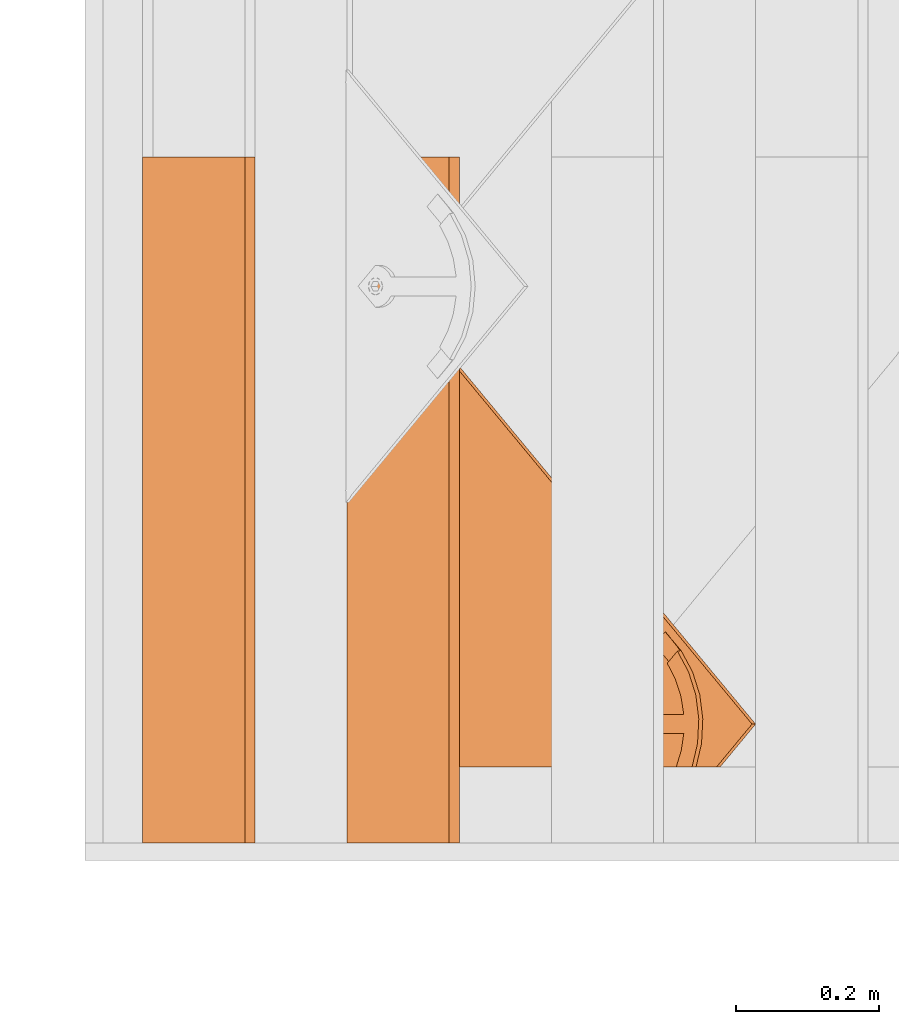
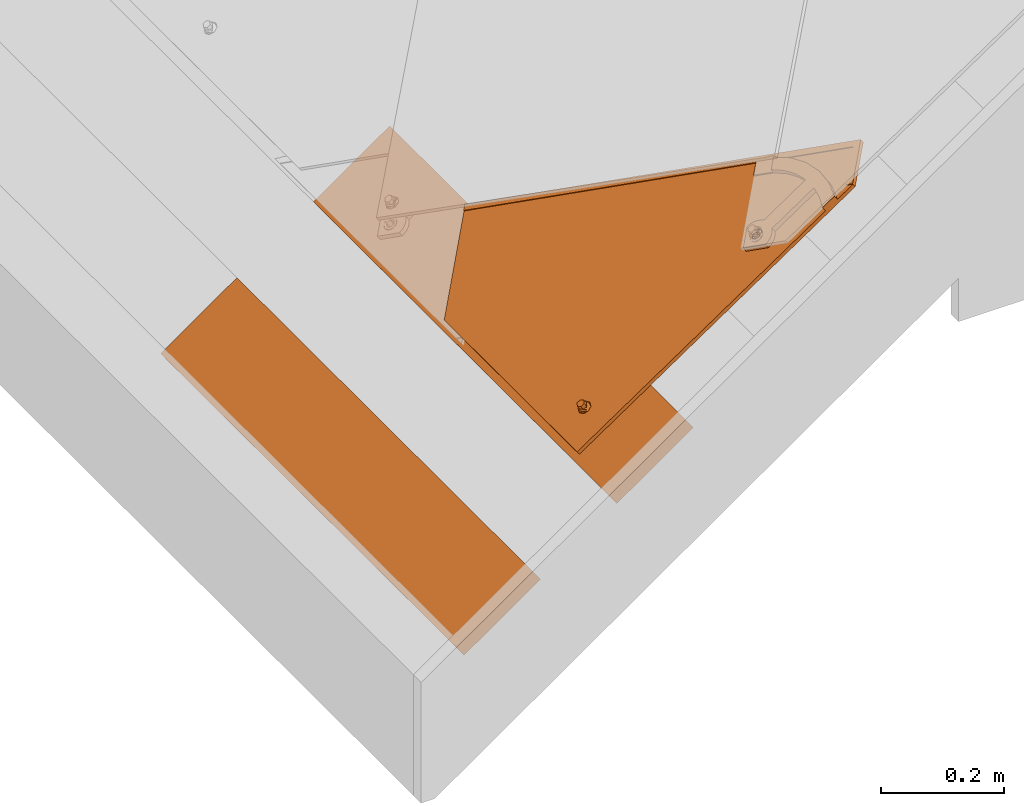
# One storey, part 112 of 151: 3 proxies, 1 element without a shape of its own.
"""IFC2X3 building model written with IfcOpenShell, lengths in millimetres."""

import ifcopenshell
import ifcopenshell.guid

model = None  # the IFC model being written
_history = None  # IfcOwnerHistory: only IFC2X3 demands one
_inside = {}  # id of a spatial element -> (the spatial element, [elements in it])
_under = {}  # id of a project, library or spatial element -> (it, [spatial elements below it])
_declared = {}  # id of a project -> (the project, [libraries it declares])
_typed = {}  # id of a type object -> (the type object, [elements of that type])
_made_of = {}  # id of a material, layer set ... -> (it, [elements and type objects made of it])


def new_model(schema):
    """Start an empty IFC model of exactly this schema.

    Asked for "IFC4X3", IfcOpenShell would pick the latest addendum, in which some entities
    have other attributes; the version numbers below select the first issue.
    IFC2X3 requires an IfcOwnerHistory on every rooted entity: one is made here for all.
    """
    global model, _history
    if schema == "IFC4X3":
        model = ifcopenshell.file(schema_version=(4, 3, 0, 0))
    else:
        model = ifcopenshell.file(schema=schema)
    _inside.clear()
    _under.clear()
    _declared.clear()
    _typed.clear()
    _made_of.clear()
    _history = None
    if model.schema == "IFC2X3":
        org = make("IfcOrganization", Name="unknown")
        user = make(
            "IfcPersonAndOrganization",
            ThePerson=make("IfcPerson", FamilyName="unknown"),
            TheOrganization=org,
        )
        app = make(
            "IfcApplication",
            ApplicationDeveloper=org,
            Version="unknown",
            ApplicationFullName="unknown",
            ApplicationIdentifier="unknown",
        )
        _history = make(
            "IfcOwnerHistory",
            OwningUser=user,
            OwningApplication=app,
            ChangeAction="ADDED",
            CreationDate=0,
        )
    return model


def make(cls, **values):
    """One entity of the class cls with the attributes given. An attribute that is None is left unset."""
    return model.create_entity(
        cls, **{name: value for name, value in values.items() if value is not None}
    )


def entity(cls, *values):
    """Any entity or typed value of the class cls, its attributes in the order of the schema. None: left unset."""
    e = model.create_entity(cls)
    for i, value in enumerate(values):
        if value is not None:
            e[i] = value
    return e


def rooted(cls, **values):
    """An entity with a GlobalId (a new one), such as an element, a storey or a relation."""
    return make(cls, GlobalId=ifcopenshell.guid.new(), OwnerHistory=_history, **values)


def si_unit(unit_type, name, prefix=None):
    """IfcSIUnit, for example si_unit("LENGTHUNIT", "METRE", prefix="MILLI")."""
    return make("IfcSIUnit", UnitType=unit_type, Prefix=prefix, Name=name)


def converted_unit(unit_type, name, factor, base, dimensions=None, offset=None):
    """IfcConversionBasedUnit, such as the inch: factor (a typed value) times the base unit."""
    return make(
        "IfcConversionBasedUnit"
        if offset is None
        else "IfcConversionBasedUnitWithOffset",
        ConversionOffset=offset,
        Dimensions=None
        if dimensions is None
        else entity("IfcDimensionalExponents", *dimensions),
        UnitType=unit_type,
        Name=name,
        ConversionFactor=make(
            "IfcMeasureWithUnit", ValueComponent=factor, UnitComponent=base
        ),
    )


def derived_unit(unit_type, elements):
    """IfcDerivedUnit: a product of units, each with its exponent."""
    return make(
        "IfcDerivedUnit",
        Elements=[
            make("IfcDerivedUnitElement", Unit=unit, Exponent=power)
            for unit, power in elements
        ],
        UnitType=unit_type,
    )


def assignment(units):
    """IfcUnitAssignment: the units of a project."""
    return None if units is None else make("IfcUnitAssignment", Units=units)


def point(xyz):
    """IfcCartesianPoint."""
    return None if xyz is None else make("IfcCartesianPoint", Coordinates=xyz)


def direction(xyz):
    """IfcDirection."""
    return None if xyz is None else make("IfcDirection", DirectionRatios=xyz)


def frame(location, z_axis=None, x_axis=None):
    """IfcAxis2Placement3D, a coordinate frame: its origin and axes. An axis left out is left unset."""
    return make(
        "IfcAxis2Placement3D",
        Location=point(location),
        Axis=direction(z_axis),
        RefDirection=direction(x_axis),
    )


def frame_2d(location, x_axis=None):
    """IfcAxis2Placement2D, a coordinate frame in the plane: its origin and x axis."""
    return make(
        "IfcAxis2Placement2D", Location=point(location), RefDirection=direction(x_axis)
    )


def origin():
    """The frame at (0, 0, 0) with its axes left unset."""
    return frame((0.0, 0.0, 0.0))


def place(relative_to, where):
    """IfcLocalPlacement: puts the frame where relative to a parent placement (None: the world)."""
    return make(
        "IfcLocalPlacement", PlacementRelTo=relative_to, RelativePlacement=where
    )


def context(
    kind, dimensions, precision=None, world=None, true_north=None, identifier=None
):
    """IfcGeometricRepresentationContext, for example the 3D "Model" context."""
    return make(
        "IfcGeometricRepresentationContext",
        ContextIdentifier=identifier,
        ContextType=kind,
        CoordinateSpaceDimension=dimensions,
        Precision=precision,
        WorldCoordinateSystem=world,
        TrueNorth=true_north,
    )


def subcontext(parent, identifier, kind, view, scale=None):
    """IfcGeometricRepresentationSubContext, for example "Body" below "Model"."""
    return make(
        "IfcGeometricRepresentationSubContext",
        ContextIdentifier=identifier,
        ContextType=kind,
        ParentContext=parent,
        TargetScale=scale,
        TargetView=view,
    )


def project(units=None, contexts=None):
    """IfcProject with its units and contexts."""
    return rooted(
        "IfcProject",
        Name="project",
        RepresentationContexts=contexts,
        UnitsInContext=assignment(units),
    )


def spatial(cls, under=None, at=None, **own):
    """A site, building, storey or space (cls), placed at a placement, below another one or the project."""
    s = rooted(cls, ObjectPlacement=at, **own)
    if under is not None:
        _under.setdefault(under.id(), (under, []))[1].append(s)
    return s


def profile(cls, at=None, kind="AREA", **sizes):
    """A parametric profile (cls). Its sizes go by their IFC names, for example OverallWidth=200.0."""
    return make(cls, ProfileType=kind, Position=at, **sizes)


def rectangle(**sizes):
    """IfcRectangleProfileDef."""
    return profile("IfcRectangleProfileDef", **sizes)


def extrude(swept, where, along, depth):
    """IfcExtrudedAreaSolid: the profile swept, set in the frame where, extruded along a direction by depth."""
    return make(
        "IfcExtrudedAreaSolid",
        SweptArea=swept,
        Position=where,
        ExtrudedDirection=direction(along),
        Depth=depth,
    )


def faces_of(points, faces, orient=None, outer=None):
    """IfcFace entities. A face is a list of loops; a loop is a list of indices into points, from 0.

    orient and outer hold one flag for each loop. By default every Orientation is true, the
    first loop of a face is its IfcFaceOuterBound and the others are IfcFaceBound.
    """
    made = []
    for i, loops in enumerate(faces):
        bounds = []
        for j, loop in enumerate(loops):
            is_outer = j == 0 if outer is None else outer[i][j]
            bounds.append(
                make(
                    "IfcFaceOuterBound" if is_outer else "IfcFaceBound",
                    Bound=make("IfcPolyLoop", Polygon=[points[k] for k in loop]),
                    Orientation=True if orient is None else orient[i][j],
                )
            )
        made.append(make("IfcFace", Bounds=bounds))
    return made


def faceted_brep(points, faces, orient=None, outer=None, voids=None):
    """IfcFacetedBrep: a solid bounded by flat faces; with voids (closed shells), ...WithVoids."""
    shared = [point(p) for p in points]
    hull = make("IfcClosedShell", CfsFaces=faces_of(shared, faces, orient, outer))
    if voids is None:
        return make("IfcFacetedBrep", Outer=hull)
    return make(
        "IfcFacetedBrepWithVoids",
        Outer=hull,
        Voids=[
            make(cls, CfsFaces=faces_of(shared, fs, o, b)) for cls, fs, o, b in voids
        ],
    )


def shape(context_of_items, identifier, shape_type, items):
    """IfcShapeRepresentation: the items that make up one representation, for example the "Body"."""
    return make(
        "IfcShapeRepresentation",
        ContextOfItems=context_of_items,
        RepresentationIdentifier=identifier,
        RepresentationType=shape_type,
        Items=items,
    )


def source(mapping_origin, context_of_items, identifier, shape_type, items):
    """IfcRepresentationMap: a shape defined once, which mapped items show again and again."""
    return make(
        "IfcRepresentationMap",
        MappingOrigin=mapping_origin,
        MappedRepresentation=shape(context_of_items, identifier, shape_type, items),
    )


def transform(
    local_origin,
    x_axis=None,
    y_axis=None,
    z_axis=None,
    scale=None,
    scale2=None,
    scale3=None,
    uniform=True,
):
    """IfcCartesianTransformationOperator3D, or its non-uniform kind. x_axis, y_axis, z_axis: its Axis1, 2, 3."""
    if uniform:
        return make(
            "IfcCartesianTransformationOperator3D",
            Axis1=direction(x_axis),
            Axis2=direction(y_axis),
            LocalOrigin=point(local_origin),
            Scale=scale,
            Axis3=direction(z_axis),
        )
    return make(
        "IfcCartesianTransformationOperator3DnonUniform",
        Axis1=direction(x_axis),
        Axis2=direction(y_axis),
        LocalOrigin=point(local_origin),
        Scale=scale,
        Axis3=direction(z_axis),
        Scale2=scale2,
        Scale3=scale3,
    )


def mapped(mapping_source, mapping_target):
    """IfcMappedItem: shows the shape of a source again, moved by a transform."""
    return make(
        "IfcMappedItem", MappingSource=mapping_source, MappingTarget=mapping_target
    )


def material(Name=None, Category=None):
    """IfcMaterial."""
    return make("IfcMaterial", Name=Name, Category=Category)


def material_list(materials):
    """IfcMaterialList."""
    return make("IfcMaterialList", Materials=materials)


def made_of(thing, what):
    """Note that an element or type object is made of a material, layer set ...; save() writes the relation."""
    if what is not None:
        _made_of.setdefault(what.id(), (what, []))[1].append(thing)
    return thing


def type_object(cls, material=None, **own):
    """A type object (cls), such as IfcWallType, which elements share."""
    return made_of(rooted(cls, **own), material)


def type_shapes(of_type, sources):
    """Give a type object the sources (RepresentationMaps) that its elements show as mapped items."""
    of_type.RepresentationMaps = sources


def element(
    cls,
    number,
    at=None,
    inside=None,
    cuts=None,
    type_object=None,
    material=None,
    context=None,
    identifier="Body",
    shape_type=None,
    held_by="IfcProductDefinitionShape",
    body=None,
    shapes=None,
    **own,
):
    """One element of the class cls, such as IfcWall. Its Tag is "e" and its number.

    at: its placement. inside: the storey or other place that contains it. cuts: it is an
    opening in that element (IfcRelVoidsElement). A single representation is given by context,
    identifier, shape_type and body (its items); several are given by shapes. held_by: the class
    of the entity that holds the representations. save() writes the other relations.
    """
    e = rooted(cls, Tag="e%d" % number, ObjectPlacement=at, **own)
    if body is not None:
        shapes = [shape(context, identifier, shape_type, body)]
    if shapes is not None:
        e.Representation = make(held_by, Representations=shapes)
    if inside is not None:
        _inside.setdefault(inside.id(), (inside, []))[1].append(e)
    if cuts is not None:
        rooted(
            "IfcRelVoidsElement", RelatingBuildingElement=cuts, RelatedOpeningElement=e
        )
    if type_object is not None:
        _typed.setdefault(type_object.id(), (type_object, []))[1].append(e)
    return made_of(e, material)


def aggregate(whole, parts):
    """IfcRelAggregates: a whole, such as a stair, and the parts it consists of."""
    return rooted("IfcRelAggregates", RelatingObject=whole, RelatedObjects=parts)


def save(model, path):
    """Write the relations noted so far, then the file.

    IfcRelAggregates (storeys below a building ...), IfcRelContainedInSpatialStructure (elements
    in a storey), IfcRelDefinesByType, IfcRelAssociatesMaterial and IfcRelDeclares: one each for
    every whole, place, type object, material and project.
    """
    for whole, parts in _under.values():
        aggregate(whole, parts)
    for where, things in _inside.values():
        rooted(
            "IfcRelContainedInSpatialStructure",
            RelatedElements=things,
            RelatingStructure=where,
        )
    for kind, things in _typed.values():
        rooted("IfcRelDefinesByType", RelatedObjects=things, RelatingType=kind)
    for what, things in _made_of.values():
        rooted("IfcRelAssociatesMaterial", RelatedObjects=things, RelatingMaterial=what)
    for by, libraries in _declared.values():
        rooted("IfcRelDeclares", RelatingContext=by, RelatedDefinitions=libraries)
    model.write(path)


model = new_model("IFC2X3")

# Units and contexts
model_context = context("Model", 3, precision=0.01, world=origin(), true_north=direction((6.12303176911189e-17, 1.0)))
body_context = subcontext(model_context, "Body", "Model", "MODEL_VIEW")
ifc_project = project(units=[si_unit("LENGTHUNIT", "METRE", prefix="MILLI"), si_unit("AREAUNIT", "SQUARE_METRE"), si_unit("VOLUMEUNIT", "CUBIC_METRE"), converted_unit("PLANEANGLEUNIT", "DEGREE", entity("IfcRatioMeasure", 0.0174532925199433), si_unit("PLANEANGLEUNIT", "RADIAN"), dimensions=[0, 0, 0, 0, 0, 0, 0]), si_unit("MASSUNIT", "GRAM", prefix="KILO"), derived_unit("MASSDENSITYUNIT", [(si_unit("MASSUNIT", "GRAM", prefix="KILO"), 1), (si_unit("LENGTHUNIT", "METRE"), -3)]), si_unit("TIMEUNIT", "SECOND"), si_unit("FREQUENCYUNIT", "HERTZ"), si_unit("THERMODYNAMICTEMPERATUREUNIT", "DEGREE_CELSIUS"), derived_unit("THERMALTRANSMITTANCEUNIT", [(si_unit("MASSUNIT", "GRAM", prefix="KILO"), 1), (si_unit("THERMODYNAMICTEMPERATUREUNIT", "KELVIN"), -1), (si_unit("TIMEUNIT", "SECOND"), -3)]), derived_unit("VOLUMETRICFLOWRATEUNIT", [(si_unit("LENGTHUNIT", "METRE"), 3), (si_unit("TIMEUNIT", "SECOND"), -1)]), si_unit("ELECTRICCURRENTUNIT", "AMPERE"), si_unit("ELECTRICVOLTAGEUNIT", "VOLT"), si_unit("POWERUNIT", "WATT"), si_unit("FORCEUNIT", "NEWTON", prefix="KILO"), si_unit("ILLUMINANCEUNIT", "LUX"), si_unit("LUMINOUSFLUXUNIT", "LUMEN"), si_unit("LUMINOUSINTENSITYUNIT", "CANDELA"), derived_unit("USERDEFINED", [(si_unit("MASSUNIT", "GRAM", prefix="KILO"), -1), (si_unit("LENGTHUNIT", "METRE"), -2), (si_unit("TIMEUNIT", "SECOND"), 3), (si_unit("LUMINOUSFLUXUNIT", "LUMEN"), 1)]), derived_unit("LINEARVELOCITYUNIT", [(si_unit("LENGTHUNIT", "METRE"), 1), (si_unit("TIMEUNIT", "SECOND"), -1)]), si_unit("PRESSUREUNIT", "PASCAL"), derived_unit("USERDEFINED", [(si_unit("LENGTHUNIT", "METRE"), -2), (si_unit("MASSUNIT", "GRAM", prefix="KILO"), 1), (si_unit("TIMEUNIT", "SECOND"), -2)])], contexts=[model_context])

# Site, building, storey
site_placement = place(None, origin())
site = spatial("IfcSite", under=ifc_project, at=site_placement, Name="Default", CompositionType="ELEMENT")
building_placement = place(site_placement, origin())
building = spatial("IfcBuilding", under=site, at=building_placement, CompositionType="ELEMENT")
storey_placement = place(building_placement, origin())
storey = spatial("IfcBuildingStorey", under=building, at=storey_placement, Name="Level 1", CompositionType="ELEMENT", Elevation=0.0)

# Assembly, proxies
assembly_placement = place(storey_placement, origin())
assembly = element("IfcElementAssembly", 1, at=assembly_placement, inside=storey, Name="Structural Framing Assembly:Roof Construction Assembly", ObjectType="Structural Framing Assembly:Roof Construction Assembly", AssemblyPlace="NOTDEFINED", PredefinedType="USERDEFINED")
ifc_material_1 = material(Name="Wood - Generic - Wood For Showcase")
building_element_proxy_type_1 = type_object("IfcBuildingElementProxyType", Name="Structural Framing 15", PredefinedType="NOTDEFINED", material=ifc_material_1)
shared_shape_1 = source(origin(), body_context, "Body", "SweptSolid", [
    extrude(rectangle(XDim=24.9999999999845, YDim=174.344679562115, at=frame_2d((-1.77635683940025e-13, -4.54747350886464e-13), x_axis=(0.0, 1.0))), frame((1128.20180147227, 2967.09519417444, 2760.23940055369), z_axis=(0.0, 1.0, 0.0), x_axis=(-0.819152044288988, 0.0, -0.573576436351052)), (0.0, 0.0, 1.0), 958.455607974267),
])
type_shapes(building_element_proxy_type_1, [shared_shape_1])
proxy_1_placement = place(assembly_placement, frame((-3370.06734507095, -9670.0, -2400.0)))
proxy_1 = element("IfcBuildingElementProxy", 2, at=proxy_1_placement, type_object=building_element_proxy_type_1, material=ifc_material_1, Name="Structural Framing 139:Structural Framing 15", ObjectType="Structural Framing 139:Structural Framing 15", context=body_context, shape_type="MappedRepresentation", body=[
    mapped(shared_shape_1, transform((0.0, 0.0, 0.0), scale=1.0)),
])
building_element_proxy_type_2 = type_object("IfcBuildingElementProxyType", Name="Structural Framing 15", PredefinedType="NOTDEFINED", material=ifc_material_1)
shared_shape_2 = source(origin(), body_context, "Body", "SweptSolid", [
    extrude(rectangle(XDim=24.9999999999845, YDim=174.344679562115, at=frame_2d((-1.77635683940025e-13, -4.54747350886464e-13), x_axis=(0.0, 1.0))), frame((1128.20180147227, 2967.09519417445, 2760.23940055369), z_axis=(0.0, 1.0, 0.0), x_axis=(-0.819152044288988, 0.0, -0.573576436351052)), (0.0, 0.0, 1.0), 958.455607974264),
])
type_shapes(building_element_proxy_type_2, [shared_shape_2])
proxy_2_placement = place(assembly_placement, frame((-3655.6969464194, -9670.0, -2600.0)))
proxy_2 = element("IfcBuildingElementProxy", 3, at=proxy_2_placement, type_object=building_element_proxy_type_2, material=ifc_material_1, Name="Structural Framing 149:Structural Framing 15", ObjectType="Structural Framing 149:Structural Framing 15", context=body_context, shape_type="MappedRepresentation", body=[
    mapped(shared_shape_2, transform((0.0, 0.0, 0.0), scale=1.0)),
])
aggregate(assembly, [proxy_1, proxy_2])

# Proxy
ifc_material_2 = material(Name="Rubber - Sunstyle - Black")
ifc_material_3 = material(Name="Glass - Sunstyle - Tainted Black")
ifc_material_list_1 = material_list([ifc_material_2, ifc_material_3])
ifc_material_list_2 = material_list([ifc_material_2, ifc_material_3])
building_element_proxy_type_3 = type_object("IfcBuildingElementProxyType", Name="Corner Bottom Big Right - Black", PredefinedType="NOTDEFINED", material=ifc_material_list_2)
shared_shape_3 = source(origin(), body_context, "Body", "Brep", [
    faceted_brep([(0.270009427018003, -2.025866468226, -4.01619789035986), (-5.50419340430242, -5.35913660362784, -3.96037390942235), (-5.50419340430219, -4.99082751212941, 18.0314954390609), (0.270009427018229, -1.65755737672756, 17.9756714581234), (-5.50419340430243, -12.0256768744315, -3.84872594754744), (-5.5041934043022, -11.6573677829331, 18.1431434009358), (0.270009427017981, -15.3589470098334, -3.79290196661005), (0.270009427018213, -14.990637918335, 18.1989673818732), (6.04421225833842, -12.0256768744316, -3.84872594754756), (6.04421225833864, -11.6573677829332, 18.1431434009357), (6.04421225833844, -5.35913660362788, -3.96037390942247), (6.04421225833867, -4.99082751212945, 18.0314954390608), (-8.3336947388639, -16.9265954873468, 18.2313898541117), (0.27000942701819, -20.4898667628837, 18.2910657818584), (-11.8974656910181, -8.32409764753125, 18.0873194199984), (-8.33369473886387, 0.278400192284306, 17.9432489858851), (0.270009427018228, 3.84167146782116, 17.8835730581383), (8.87371359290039, 0.278400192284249, 17.9432489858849), (12.4374845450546, -8.32409764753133, 18.0873194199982), (8.87371359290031, -16.9265954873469, 18.2313898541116), (-11.1602134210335, -6.95050198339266, 20.4858706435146), (-9.50050407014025, -8.25322861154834, 22.3189355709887), (0.270009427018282, -0.940007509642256, 22.9603444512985), (0.27000942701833, 0.300490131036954, 22.3799978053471), (0.270009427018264, 2.4580409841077, 21.3706227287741), (-6.05323627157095, -4.59022324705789, 23.0214764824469), (-6.05323627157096, -11.8906547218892, 23.1437405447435), (0.270009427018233, -18.990246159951, 21.7298281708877), (0.270009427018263, -15.5408704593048, 23.2048725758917), (11.2551842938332, -12.0411541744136, 20.3827540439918), (10.3938597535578, -8.25726753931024, 22.077768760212), (6.59325512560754, -4.59022324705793, 23.0214764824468), (6.5932551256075, -11.8906547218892, 23.1437405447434), (-6.05323627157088, -11.7566262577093, 31.1466287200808), (0.270009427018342, -15.4068419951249, 31.207760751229), (0.270009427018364, -8.10641052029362, 31.0854966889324), (-6.05323627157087, -4.456194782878, 31.0243646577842), (6.59325512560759, -11.7566262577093, 31.1466287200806), (6.59325512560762, -4.45619478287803, 31.024364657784), (0.270009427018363, -0.805979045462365, 30.9632326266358), (0.270009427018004, -8.69240673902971, -3.90454992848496)], [[[0, 1, 2, 3]], [[1, 4, 5, 2]], [[4, 6, 7, 5]], [[6, 8, 9, 7]], [[8, 10, 11, 9]], [[10, 0, 3, 11]], [[12, 7, 13]], [[7, 12, 5]], [[14, 5, 12]], [[5, 14, 2]], [[15, 2, 14]], [[3, 2, 15]], [[15, 16, 3]], [[16, 17, 3]], [[11, 3, 17]], [[11, 17, 18]], [[9, 11, 18]], [[18, 19, 9]], [[7, 9, 19]], [[19, 13, 7]], [[15, 20, 16]], [[21, 22, 23, 24]], [[22, 21, 25]], [[20, 14, 12]], [[15, 14, 20]], [[25, 21, 26]], [[20, 24, 16]], [[12, 13, 27]], [[12, 27, 20]], [[21, 28, 26]], [[21, 27, 28]], [[20, 21, 24]], [[20, 27, 21]], [[19, 29, 13]], [[30, 23, 31]], [[30, 28, 27]], [[24, 23, 30]], [[29, 27, 13]], [[19, 18, 29]], [[29, 30, 27]], [[29, 17, 24]], [[24, 17, 16]], [[31, 32, 30]], [[23, 22, 31]], [[28, 30, 32]], [[29, 24, 30]], [[29, 18, 17]], [[33, 34, 35]], [[35, 36, 33]], [[34, 37, 35]], [[38, 35, 37]], [[35, 38, 39]], [[35, 39, 36]], [[40, 6, 4]], [[4, 1, 40]], [[1, 0, 40]], [[40, 8, 6]], [[0, 10, 40]], [[8, 40, 10]], [[22, 25, 36, 39]], [[25, 26, 33, 36]], [[26, 28, 34, 33]], [[28, 32, 37, 34]], [[32, 31, 38, 37]], [[31, 22, 39, 38]]]),
    faceted_brep([(-518.247351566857, 79.9143812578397, 14.9652572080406), (-518.247351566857, 79.9394990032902, 16.4650468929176), (-526.732038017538, 88.4241854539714, 16.3229495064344), (-526.732038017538, 88.399067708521, 14.8231598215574), (-0.00032251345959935, 614.98308737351, 6.00418773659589), (60.1037538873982, 554.895864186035, 7.01049921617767), (51.6190674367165, 546.411177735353, 7.15259660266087), (-0.000322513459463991, 598.016093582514, 6.28834266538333), (-0.000322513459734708, 615.00820511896, 7.50397742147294), (-0.000322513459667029, 598.041211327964, 7.78813235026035), (51.6190674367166, 546.436295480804, 8.65238628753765), (60.1037538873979, 554.920981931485, 8.51028890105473)], [[[0, 1, 2, 3]], [[0, 3, 4, 5, 6, 7]], [[3, 2, 8, 4]], [[2, 1, 9, 10, 11, 8]], [[1, 0, 7, 9]], [[6, 5, 11, 10]], [[4, 8, 11, 5]], [[9, 7, 6, 10]]]),
    faceted_brep([(0.0, 372.774440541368, 20.3195200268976), (0.0, 377.273809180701, 20.2441667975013), (-8.60370416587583, 376.337711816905, 20.2598440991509), (8.60370416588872, 376.337711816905, 20.2598440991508), (6.64022859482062, 381.107009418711, 20.1799702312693), (12.1674751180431, 384.940209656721, 20.1157736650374), (6.64022859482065, 388.773409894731, 20.0515770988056), (8.6037041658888, 393.542707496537, 19.9717032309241), (0.0, 392.606610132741, 19.9873805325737), (0.0, 397.105978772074, 19.9120273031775), (-8.60370416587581, 393.542707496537, 19.9717032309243), (-6.64022859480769, 388.773409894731, 20.0515770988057), (-12.1674751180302, 384.940209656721, 20.1157736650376), (-6.6402285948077, 381.107009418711, 20.1799702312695), (-6.6402282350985, 388.505487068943, 4.05382046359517), (0.0, 392.338687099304, 3.98962390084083), (-6.64022823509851, 380.839087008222, 4.18221358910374), (0.0, 377.005886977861, 4.24641015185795), (6.64022823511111, 380.839087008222, 4.1822135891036), (6.64022823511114, 388.505487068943, 4.05382046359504), (-8.603704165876, 376.069789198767, 4.26208746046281), (0.0, 372.50651792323, 4.32176338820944), (-12.1674751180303, 384.672287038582, 4.11801702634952), (-8.60370416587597, 393.274784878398, 3.97394659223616), (0.0, 396.838056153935, 3.91427066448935), (8.60370416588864, 393.274784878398, 3.97394659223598), (12.1674751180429, 384.672287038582, 4.11801702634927), (8.60370416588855, 376.069789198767, 4.26208746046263)], [[[0, 1, 2]], [[1, 0, 3]], [[3, 4, 1]], [[4, 3, 5]], [[6, 4, 5]], [[5, 7, 6]], [[7, 8, 6]], [[8, 7, 9]], [[8, 9, 10]], [[10, 11, 8]], [[12, 11, 10]], [[2, 13, 12]], [[12, 13, 11]], [[13, 2, 1]], [[8, 11, 14, 15]], [[11, 13, 16, 14]], [[13, 1, 17, 16]], [[1, 4, 18, 17]], [[4, 6, 19, 18]], [[6, 8, 15, 19]], [[20, 17, 21]], [[17, 20, 16]], [[22, 16, 20]], [[14, 16, 22]], [[23, 14, 22]], [[15, 14, 23]], [[23, 24, 15]], [[24, 25, 15]], [[19, 15, 25]], [[19, 25, 26]], [[26, 18, 19]], [[26, 27, 18]], [[17, 18, 27]], [[27, 21, 17]], [[24, 23, 10, 9]], [[10, 23, 22, 12]], [[20, 21, 0, 2]], [[20, 2, 12, 22]], [[21, 27, 3, 0]], [[3, 27, 26, 5]], [[25, 24, 9, 7]], [[25, 7, 5, 26]]]),
    faceted_brep([(-10.3923048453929, 390.78484910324, 9.75895037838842), (-8.48528137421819, 393.269782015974, 9.7173339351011), (-0.00032251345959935, 614.983087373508, 6.0041877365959), (-11.5911099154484, 387.891083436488, 9.8074137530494), (-6.0, 395.176538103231, 9.68540051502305), (-3.10582854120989, 396.37517508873, 9.6653263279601), (60.1037538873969, 554.895864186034, 7.01049921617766), (0.0, 396.784007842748, 9.65847939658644), (3.1058285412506, 396.37517508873, 9.6653263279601), (6.0, 395.176538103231, 9.68540051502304), (8.48528137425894, 393.269782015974, 9.7173339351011), (10.3923048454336, 390.784849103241, 9.75895037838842), (11.5911099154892, 387.891083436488, 9.8074137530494), (12.0, 384.785690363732, 9.8594213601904), (11.5911099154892, 381.680297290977, 9.9114289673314), (60.103753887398, -67.933460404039, 17.4413406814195), (10.3923048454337, 378.786531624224, 9.95989234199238), (6.58173564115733, -3.94243384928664, 16.369650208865), (8.48528137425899, 376.301598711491, 10.0015087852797), (5.31038666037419, -2.28581190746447, 16.3419059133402), (6.0, 374.394842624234, 10.0334422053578), (3.65353241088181, -1.01464118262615, 16.3206169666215), (3.10582854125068, 373.196205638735, 10.0535163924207), (1.72408477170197, -0.215549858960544, 16.3072341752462), (0.0, 372.787372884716, 10.0603633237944), (-0.346467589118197, 0.0570053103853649, 16.3026695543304), (-2.41701994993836, -0.215549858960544, 16.3072341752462), (-3.10582854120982, 373.196205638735, 10.0535163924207), (-4.34646758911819, -1.01464118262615, 16.3206169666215), (-6.0, 374.394842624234, 10.0334422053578), (-6.00332183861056, -2.28581190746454, 16.3419059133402), (-8.48528137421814, 376.301598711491, 10.0015087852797), (-370.355661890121, -67.9334604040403, 17.4413406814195), (-10.3923048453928, 378.786531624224, 9.95989234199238), (-526.732038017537, 88.3990677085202, 14.8231598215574), (-11.5911099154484, 381.680297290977, 9.9114289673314), (-12.0, 384.785690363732, 9.8594213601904), (-7.27467081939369, -3.94243384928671, 16.369650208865), (-8.07387419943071, -5.87161096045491, 16.4019591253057), (-8.34646758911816, -7.94187300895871, 16.4366308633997), (-8.0738741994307, -10.0121350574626, 16.4713026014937), (-7.27467081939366, -11.9413121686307, 16.5036115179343), (-6.00332183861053, -13.5979341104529, 16.5313558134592), (-4.34646758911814, -14.8691048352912, 16.5526447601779), (-2.41701994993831, -15.6681961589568, 16.5660275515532), (7.38093902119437, -5.87161096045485, 16.4019591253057), (7.65353241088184, -7.94187300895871, 16.4366308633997), (7.38093902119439, -10.0121350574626, 16.4713026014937), (6.58173564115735, -11.9413121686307, 16.5036115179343), (5.31038666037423, -13.5979341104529, 16.5313558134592), (3.65353241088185, -14.8691048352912, 16.5526447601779), (1.72408477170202, -15.6681961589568, 16.5660275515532), (-0.346467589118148, -15.9407513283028, 16.570592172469), (-370.355661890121, -68.0590491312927, 9.94239225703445), (-8.0738741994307, -10.1377237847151, 8.97235417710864), (-7.27467081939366, -12.0669008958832, 9.00466309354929), (-8.34646758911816, -8.06746173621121, 8.93768243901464), (-6.00332183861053, -13.7235228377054, 9.03240738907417), (-4.34646758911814, -14.9946935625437, 9.05369633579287), (60.103753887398, -68.0590491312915, 9.94239225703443), (-8.07387419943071, -5.99719968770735, 8.90301070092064), (-7.27467081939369, -4.06802257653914, 8.87070178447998), (-6.00332183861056, -2.41140063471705, 8.8429574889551), (-8.48528137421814, 376.176009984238, 2.50256036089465), (-10.3923048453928, 378.660942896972, 2.46094391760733), (-526.732038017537, 88.2734789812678, 7.32421139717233), (-11.5911099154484, 381.554708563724, 2.41248054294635), (-12.0, 384.66010163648, 2.36047293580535), (-11.5911099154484, 387.765494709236, 2.30846532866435), (-0.00032251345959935, 614.857498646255, -1.49476068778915), (-10.3923048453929, 390.659260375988, 2.26000195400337), (-8.48528137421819, 393.144193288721, 2.21838551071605), (-6.0, 395.050949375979, 2.18645209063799), (-3.10582854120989, 396.249586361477, 2.16637790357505), (60.1037538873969, 554.770275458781, -0.488449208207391), (0.0, 396.658419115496, 2.15953097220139), (3.1058285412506, 396.249586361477, 2.16637790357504), (6.0, 395.050949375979, 2.18645209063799), (8.48528137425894, 393.144193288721, 2.21838551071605), (10.3923048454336, 390.659260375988, 2.26000195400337), (11.5911099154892, 387.765494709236, 2.30846532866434), (12.0, 384.66010163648, 2.36047293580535), (11.5911099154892, 381.554708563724, 2.41248054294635), (-2.41701994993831, -15.7937848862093, 9.06707912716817), (-0.346467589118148, -16.0663400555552, 9.07164374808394), (1.72408477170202, -15.7937848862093, 9.06707912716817), (3.65353241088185, -14.9946935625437, 9.05369633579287), (5.31038666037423, -13.7235228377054, 9.03240738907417), (6.58173564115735, -12.0669008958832, 9.00466309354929), (7.38093902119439, -10.1377237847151, 8.97235417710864), (7.65353241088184, -8.06746173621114, 8.93768243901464), (7.38093902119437, -5.99719968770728, 8.90301070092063), (6.58173564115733, -4.06802257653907, 8.87070178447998), (10.3923048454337, 378.660942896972, 2.46094391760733), (-6.0, 374.269253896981, 2.5344937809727), (-4.34646758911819, -1.14022990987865, 8.8216685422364), (-3.10582854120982, 373.070616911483, 2.55456796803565), (-2.41701994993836, -0.341138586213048, 8.8082857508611), (0.0, 372.661784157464, 2.56141489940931), (-0.346467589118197, -0.0685834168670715, 8.80372112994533), (1.72408477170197, -0.341138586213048, 8.8082857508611), (3.10582854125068, 373.070616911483, 2.55456796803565), (3.65353241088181, -1.14022990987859, 8.8216685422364), (6.0, 374.269253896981, 2.5344937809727), (5.31038666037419, -2.41140063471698, 8.8429574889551), (8.48528137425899, 376.176009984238, 2.50256036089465)], [[[0, 1, 2]], [[3, 0, 2]], [[4, 2, 1]], [[2, 4, 5]], [[6, 2, 5]], [[7, 6, 5]], [[7, 8, 6]], [[8, 9, 6]], [[10, 6, 9]], [[6, 10, 11]], [[6, 11, 12]], [[12, 13, 6]], [[13, 14, 6]], [[6, 14, 15]], [[14, 16, 15]], [[17, 15, 16]], [[18, 17, 16]], [[17, 18, 19]], [[18, 20, 19]], [[21, 19, 20]], [[20, 22, 21]], [[23, 21, 22]], [[24, 23, 22]], [[23, 24, 25]], [[26, 25, 24]], [[24, 27, 26]], [[26, 27, 28]], [[29, 28, 27]], [[28, 29, 30]], [[29, 31, 30]], [[32, 30, 31]], [[33, 32, 31]], [[33, 34, 32]], [[33, 35, 34]], [[35, 36, 34]], [[36, 3, 34]], [[3, 2, 34]], [[30, 32, 37]], [[37, 32, 38]], [[32, 39, 38]], [[39, 32, 40]], [[40, 32, 41]], [[42, 41, 32]], [[42, 32, 43]], [[43, 32, 15]], [[15, 44, 43]], [[17, 45, 15]], [[45, 46, 15]], [[47, 15, 46]], [[47, 48, 15]], [[49, 15, 48]], [[15, 49, 50]], [[50, 51, 15]], [[51, 52, 15]], [[52, 44, 15]], [[53, 54, 55]], [[54, 53, 56]], [[53, 55, 57]], [[57, 58, 53]], [[53, 58, 59]], [[60, 56, 53]], [[61, 60, 53]], [[61, 53, 62]], [[63, 62, 53]], [[64, 63, 53]], [[65, 64, 53]], [[65, 66, 64]], [[66, 65, 67]], [[67, 65, 68]], [[65, 69, 68]], [[70, 68, 69]], [[71, 70, 69]], [[72, 71, 69]], [[69, 73, 72]], [[74, 73, 69]], [[75, 73, 74]], [[76, 75, 74]], [[77, 76, 74]], [[74, 78, 77]], [[78, 74, 79]], [[80, 79, 74]], [[80, 74, 81]], [[82, 81, 74]], [[82, 74, 59]], [[59, 58, 83]], [[84, 59, 83]], [[84, 85, 59]], [[85, 86, 59]], [[87, 59, 86]], [[59, 87, 88]], [[59, 88, 89]], [[89, 90, 59]], [[90, 91, 59]], [[91, 92, 59]], [[92, 93, 59]], [[93, 82, 59]], [[94, 62, 63]], [[94, 95, 62]], [[96, 95, 94]], [[97, 95, 96]], [[96, 98, 97]], [[99, 97, 98]], [[99, 98, 100]], [[101, 100, 98]], [[102, 100, 101]], [[103, 102, 101]], [[104, 102, 103]], [[103, 105, 104]], [[105, 92, 104]], [[105, 93, 92]], [[36, 67, 68, 3]], [[3, 68, 70, 0]], [[4, 1, 71, 72]], [[70, 71, 1, 0]], [[5, 4, 72, 73]], [[75, 7, 5, 73]], [[8, 76, 77, 9]], [[9, 77, 78, 10]], [[12, 11, 79, 80]], [[78, 79, 11, 10]], [[13, 12, 80, 81]], [[8, 7, 75, 76]], [[13, 81, 82, 14]], [[14, 82, 93, 16]], [[20, 18, 105, 103]], [[93, 105, 18, 16]], [[22, 20, 103, 101]], [[98, 24, 22, 101]], [[27, 96, 94, 29]], [[29, 94, 63, 31]], [[35, 33, 64, 66]], [[63, 64, 33, 31]], [[36, 35, 66, 67]], [[27, 24, 98, 96]], [[34, 2, 69, 65]], [[32, 34, 65, 53]], [[15, 32, 53, 59]], [[6, 15, 59, 74]], [[2, 6, 74, 69]], [[39, 56, 60, 38]], [[38, 60, 61, 37]], [[28, 30, 62, 95]], [[62, 30, 37, 61]], [[26, 28, 95, 97]], [[26, 97, 99, 25]], [[25, 99, 100, 23]], [[23, 100, 102, 21]], [[17, 19, 104, 92]], [[104, 19, 21, 102]], [[45, 17, 92, 91]], [[45, 91, 90, 46]], [[46, 90, 89, 47]], [[47, 89, 88, 48]], [[50, 49, 87, 86]], [[87, 49, 48, 88]], [[51, 50, 86, 85]], [[51, 85, 84, 52]], [[52, 84, 83, 44]], [[44, 83, 58, 43]], [[41, 42, 57, 55]], [[57, 42, 43, 58]], [[40, 41, 55, 54]], [[40, 54, 56, 39]]]),
    faceted_brep([(-114.2509690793, 483.839345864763, 10.7008696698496), (-128.946713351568, 469.147722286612, 10.9469178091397), (-111.269043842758, 451.472531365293, 11.2429332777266), (-84.944396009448, 477.793488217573, 10.8021227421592), (-102.027571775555, 494.874268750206, 10.5160621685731), (-108.279973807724, 489.512620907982, 10.6058564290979), (0.0, 355.735286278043, 10.3459433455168), (0.0, 373.122276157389, 10.0547545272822), (3.10582854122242, 373.531108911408, 10.0479075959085), (-3.10582854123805, 373.531108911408, 10.0479075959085), (6.0, 374.729745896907, 10.0278334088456), (8.48528137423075, 376.636501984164, 9.99589998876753), (29.3894280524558, 385.120593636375, 9.85381256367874), (-6.0, 374.729745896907, 10.0278334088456), (-8.4852813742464, 376.636501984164, 9.99589998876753), (-29.3894280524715, 385.120593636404, 9.85381256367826), (-10.3923048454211, 379.121434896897, 9.95428354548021), (-11.5911099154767, 382.01520056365, 9.90582017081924), (-12.0, 385.120593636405, 9.85381256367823), (-28.6795527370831, 391.540108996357, 9.74630165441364), (-11.5911099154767, 388.225986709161, 9.80180495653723), (-26.5842195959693, 397.649509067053, 9.64398440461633), (-10.3923048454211, 391.119752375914, 9.75334158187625), (-23.204650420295, 403.153659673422, 9.55180357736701), (-8.48528137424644, 393.604685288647, 9.71172513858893), (-18.704106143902, 407.786665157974, 9.47421226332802), (-6.0, 395.511441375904, 9.67979171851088), (-13.3000000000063, 411.324713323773, 9.41495875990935), (-3.10582854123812, 396.710078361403, 9.65971753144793), (0.0, 397.118911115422, 9.65287060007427), (13.2999999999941, 411.324713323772, 9.41495875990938), (-13.3000000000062, 505.643535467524, 7.83535317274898), (13.2999999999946, 505.643535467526, 7.83535317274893), (-7.21723712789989, 530.953901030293, 7.41146752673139), (-41.1626974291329, 525.784666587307, 7.49803934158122), (-38.7697427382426, 500.828655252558, 7.91599043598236), (-73.2491712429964, 513.560140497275, 7.70276973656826), (-62.9243331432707, 491.42502143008, 8.07347790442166), (-84.9431983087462, 477.752822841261, 8.30245321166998), (-102.027571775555, 494.832405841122, 8.01641269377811), (-108.279973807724, 489.470757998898, 8.10620695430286), (-114.2509690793, 483.79748295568, 8.20122019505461), (-111.269043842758, 451.430668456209, 8.74328380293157), (-128.946713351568, 469.105859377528, 8.44726833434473), (27.0541674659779, 528.834391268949, 7.44696404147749), (37.2599857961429, 501.252149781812, 7.90889795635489), (60.1037538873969, 519.521858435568, 7.60292579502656), (60.1037538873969, 492.795625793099, 8.05052369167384), (3.10582854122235, 396.710078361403, 9.65971753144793), (6.0, 395.511441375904, 9.67979171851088), (18.7041061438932, 407.786665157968, 9.47421226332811), (8.48528137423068, 393.604685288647, 9.71172513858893), (23.2046504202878, 403.153659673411, 9.55180357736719), (10.3923048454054, 391.119752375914, 9.75334158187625), (26.5842195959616, 397.649509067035, 9.64398440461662), (11.591109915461, 388.225986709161, 9.80180495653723), (28.6795527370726, 391.540108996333, 9.74630165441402), (12.0, 385.120593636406, 9.85381256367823), (11.591109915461, 382.01520056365, 9.90582017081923), (10.3923048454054, 379.121434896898, 9.95428354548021), (-38.7697427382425, 500.996106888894, 17.9145883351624), (-41.1626974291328, 525.952118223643, 17.4966372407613), (-73.2491712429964, 513.727592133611, 17.7013676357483), (-62.9243331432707, 491.592473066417, 18.0720758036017), (-13.3000000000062, 505.810987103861, 17.833951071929), (-7.21723712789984, 531.121352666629, 17.4100654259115), (13.2999999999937, 505.810987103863, 17.833951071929), (-13.3000000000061, 411.49216496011, 19.4135566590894), (13.2999999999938, 411.492164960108, 19.4135566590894), (0.0, 397.286362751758, 19.6514684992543), (-3.10582854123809, 396.877529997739, 19.658315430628), (-6.0, 395.678893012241, 19.6783896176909), (-18.7041061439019, 407.954116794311, 19.4728101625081), (-8.48528137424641, 393.772136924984, 19.710323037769), (-23.2046504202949, 403.321111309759, 19.5504014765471), (-10.3923048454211, 391.28720401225, 19.7519394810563), (-26.5842195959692, 397.816960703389, 19.6425823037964), (-11.5911099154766, 388.393438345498, 19.8004028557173), (-28.6795527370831, 391.707560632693, 19.7448995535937), (-12.0, 385.288045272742, 19.8524104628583), (-29.3894280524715, 385.28804527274, 19.8524104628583), (-11.5911099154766, 382.182652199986, 19.9044180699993), (-10.3923048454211, 379.288886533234, 19.9528814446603), (-8.48528137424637, 376.803953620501, 19.9944978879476), (0.0, 355.902737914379, 20.3445412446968), (-6.0, 374.897197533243, 20.0264313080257), (-3.10582854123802, 373.698560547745, 20.0465054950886), (0.0, 373.289727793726, 20.0533524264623), (3.10582854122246, 373.698560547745, 20.0465054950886), (6.0, 374.897197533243, 20.0264313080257), (8.48528137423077, 376.803953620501, 19.9944978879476), (29.3894280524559, 385.288045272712, 19.8524104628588), (10.3923048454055, 379.288886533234, 19.9528814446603), (11.591109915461, 382.182652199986, 19.9044180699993), (12.0, 385.288045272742, 19.8524104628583), (28.6795527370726, 391.70756063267, 19.7448995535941), (11.591109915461, 388.393438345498, 19.8004028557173), (26.5842195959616, 397.816960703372, 19.6425823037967), (10.3923048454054, 391.28720401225, 19.7519394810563), (23.2046504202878, 403.321111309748, 19.5504014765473), (8.48528137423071, 393.772136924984, 19.710323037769), (18.7041061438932, 407.954116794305, 19.4728101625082), (6.0, 395.678893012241, 19.6783896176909), (3.10582854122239, 396.877529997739, 19.658315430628), (27.0541674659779, 529.001842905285, 17.4455619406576), (37.259985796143, 501.419601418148, 17.907495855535), (60.1037538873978, 519.689310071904, 17.6015236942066), (60.1037538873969, 492.963077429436, 18.0491215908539), (-84.9443960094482, 477.919076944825, 18.3010711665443), (-102.027571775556, 494.999857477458, 18.0150105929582)], [[[0, 1, 2, 3, 4, 5]], [[6, 7, 8]], [[7, 6, 9]], [[6, 8, 10]], [[10, 11, 6]], [[6, 11, 12]], [[13, 9, 6]], [[14, 13, 6]], [[14, 6, 15]], [[15, 16, 14]], [[16, 15, 17]], [[17, 15, 18]], [[19, 18, 15]], [[20, 18, 19]], [[19, 21, 20]], [[20, 21, 22]], [[23, 22, 21]], [[23, 24, 22]], [[23, 25, 24]], [[25, 26, 24]], [[26, 25, 27]], [[28, 26, 27]], [[27, 29, 28]], [[30, 29, 27]], [[30, 27, 31]], [[30, 31, 32]], [[31, 33, 32]], [[33, 31, 34]], [[35, 34, 31]], [[34, 35, 36]], [[37, 36, 35]], [[37, 38, 36]], [[36, 38, 39]], [[40, 39, 38]], [[40, 38, 41]], [[38, 42, 41]], [[42, 43, 41]], [[32, 33, 44]], [[44, 45, 32]], [[45, 44, 46]], [[46, 47, 45]], [[48, 29, 30]], [[30, 49, 48]], [[49, 30, 50]], [[50, 51, 49]], [[50, 52, 51]], [[51, 52, 53]], [[54, 53, 52]], [[54, 55, 53]], [[56, 55, 54]], [[57, 55, 56]], [[12, 57, 56]], [[58, 57, 12]], [[12, 11, 59]], [[58, 12, 59]], [[1, 0, 41, 43]], [[2, 1, 43, 42]], [[4, 39, 40, 5]], [[40, 41, 0, 5]], [[3, 2, 42, 38]], [[60, 61, 62]], [[63, 60, 62]], [[64, 61, 60]], [[61, 64, 65]], [[66, 65, 64]], [[66, 64, 67]], [[66, 67, 68]], [[68, 67, 69]], [[67, 70, 69]], [[71, 70, 67]], [[71, 67, 72]], [[72, 73, 71]], [[73, 72, 74]], [[73, 74, 75]], [[74, 76, 75]], [[75, 76, 77]], [[78, 77, 76]], [[78, 79, 77]], [[78, 80, 79]], [[79, 80, 81]], [[82, 81, 80]], [[83, 82, 80]], [[83, 80, 84]], [[85, 83, 84]], [[86, 85, 84]], [[87, 86, 84]], [[87, 84, 88]], [[89, 88, 84]], [[89, 84, 90]], [[91, 90, 84]], [[92, 90, 91]], [[91, 93, 92]], [[93, 91, 94]], [[95, 94, 91]], [[95, 96, 94]], [[95, 97, 96]], [[96, 97, 98]], [[99, 98, 97]], [[98, 99, 100]], [[100, 99, 101]], [[101, 68, 102]], [[100, 101, 102]], [[102, 68, 103]], [[103, 68, 69]], [[66, 104, 65]], [[105, 104, 66]], [[105, 106, 104]], [[106, 105, 107]], [[108, 63, 62]], [[62, 109, 108]], [[66, 68, 30, 32]], [[95, 91, 12, 56]], [[97, 95, 56, 54]], [[54, 52, 99, 97]], [[101, 99, 52, 50]], [[68, 101, 50, 30]], [[91, 84, 6, 12]], [[84, 80, 15, 6]], [[72, 67, 27, 25]], [[74, 72, 25, 23]], [[23, 21, 76, 74]], [[78, 76, 21, 19]], [[80, 78, 19, 15]], [[67, 64, 31, 27]], [[104, 106, 46, 44]], [[65, 104, 44, 33]], [[33, 34, 61, 65]], [[62, 61, 34, 36]], [[4, 109, 62, 36, 39]], [[79, 18, 20, 77]], [[77, 20, 22, 75]], [[71, 73, 24, 26]], [[22, 24, 73, 75]], [[70, 71, 26, 28]], [[29, 69, 70, 28]], [[103, 48, 49, 102]], [[102, 49, 51, 100]], [[96, 98, 53, 55]], [[51, 53, 98, 100]], [[94, 96, 55, 57]], [[103, 69, 29, 48]], [[94, 57, 58, 93]], [[93, 58, 59, 92]], [[89, 90, 11, 10]], [[59, 11, 90, 92]], [[88, 89, 10, 8]], [[7, 87, 88, 8]], [[86, 9, 13, 85]], [[85, 13, 14, 83]], [[81, 82, 16, 17]], [[14, 16, 82, 83]], [[79, 81, 17, 18]], [[86, 87, 7, 9]], [[108, 109, 4, 3]], [[32, 45, 105, 66]], [[47, 107, 105, 45]], [[3, 37, 63, 108]], [[3, 38, 37]], [[35, 31, 64, 60]], [[37, 35, 60, 63]], [[106, 107, 47, 46]]]),
])
type_shapes(building_element_proxy_type_3, [shared_shape_3])
proxy_3_placement = place(storey_placement, frame((-2253.73165036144, -6536.93386895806, 367.19034550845), z_axis=(-0.57357643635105, 0.0, 0.819152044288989), x_axis=(0.0, -1.0, 0.0)))
element("IfcBuildingElementProxy", 4, at=proxy_3_placement, inside=storey, type_object=building_element_proxy_type_3, material=ifc_material_list_1, Name="Roofing_Panels_SunStyle_Tile_Corner-Bottom-Big-Right:Corner Bottom Big Right - Black", ObjectType="Roofing_Panels_SunStyle_Tile_Corner-Bottom-Big-Right:Corner Bottom Big Right - Black", context=body_context, shape_type="MappedRepresentation", body=[
    mapped(shared_shape_3, transform((0.0, 0.0, 0.0), scale=1.0)),
])

save(model, "model.ifc")
